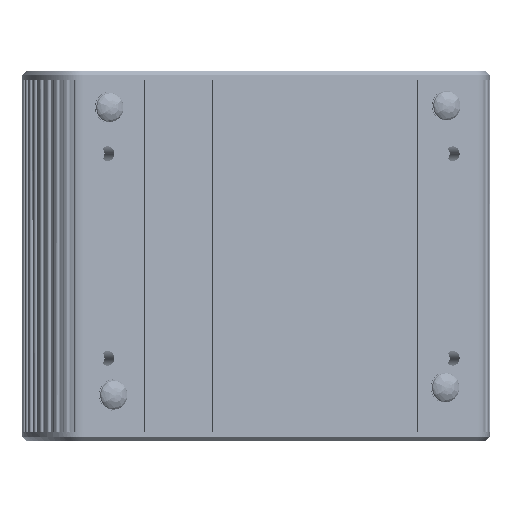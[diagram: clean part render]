
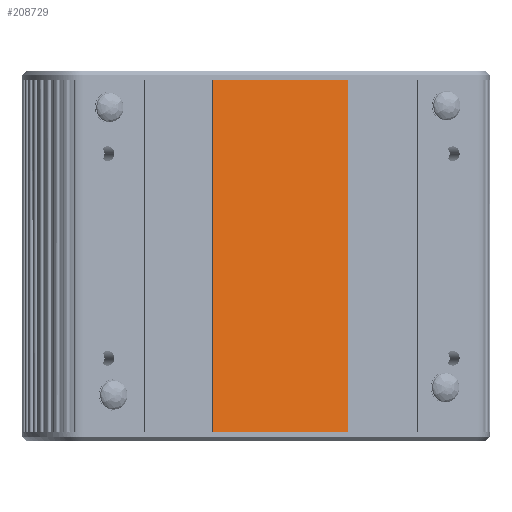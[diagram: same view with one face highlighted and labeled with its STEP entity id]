
A CAD part, front view. The second image highlights one B-rep face of the part: STEP entity #208729.
In plain terms, the highlighted planar face has unit normal (0.383, -0.924, 0) as drawn and (0, -1, 0) by its records, which use the part's own axes.
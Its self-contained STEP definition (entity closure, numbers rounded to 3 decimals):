
#3208 = LINE ( 'NONE', #88164, #226419 ) ;
#4707 = CARTESIAN_POINT ( 'NONE',  ( -15., 0., -70.5 ) ) ;
#13210 = CARTESIAN_POINT ( 'NONE',  ( 15., 0., -70.55 ) ) ;
#13253 = CARTESIAN_POINT ( 'NONE',  ( -15., 0., -70.5 ) ) ;
#34643 = ORIENTED_EDGE ( 'NONE', *, *, #110736, .F. ) ;
#38994 = DIRECTION ( 'NONE',  ( 0., 1., 0. ) ) ;
#50316 = VERTEX_POINT ( 'NONE', #210143 ) ;
#50364 = CARTESIAN_POINT ( 'NONE',  ( -15., 0., 1.55 ) ) ;
#53566 = VERTEX_POINT ( 'NONE', #151909 ) ;
#57184 = VERTEX_POINT ( 'NONE', #50364 ) ;
#70687 = DIRECTION ( 'NONE',  ( 1., 0., 0. ) ) ;
#83287 = VERTEX_POINT ( 'NONE', #13210 ) ;
#88164 = CARTESIAN_POINT ( 'NONE',  ( 15., 0., -70.5 ) ) ;
#93290 = VECTOR ( 'NONE', #102518, 1000. ) ;
#102518 = DIRECTION ( 'NONE',  ( 0., 0., 1. ) ) ;
#110736 = EDGE_CURVE ( 'NONE', #50316, #83287, #3208, .T. ) ;
#117273 = LINE ( 'NONE', #149572, #259938 ) ;
#130955 = EDGE_CURVE ( 'NONE', #57184, #50316, #117273, .T. ) ;
#140753 = ORIENTED_EDGE ( 'NONE', *, *, #130955, .F. ) ;
#147437 = LINE ( 'NONE', #4707, #93290 ) ;
#147476 = AXIS2_PLACEMENT_3D ( 'NONE', #13253, #38994, #210041 ) ;
#148066 = CARTESIAN_POINT ( 'NONE',  ( -15., 0., -70.55 ) ) ;
#149572 = CARTESIAN_POINT ( 'NONE',  ( -35.7, 0., 1.55 ) ) ;
#151909 = CARTESIAN_POINT ( 'NONE',  ( -15., 0., -70.55 ) ) ;
#180063 = ORIENTED_EDGE ( 'NONE', *, *, #194734, .F. ) ;
#186106 = DIRECTION ( 'NONE',  ( 0., 0., -1. ) ) ;
#190523 = ORIENTED_EDGE ( 'NONE', *, *, #258056, .T. ) ;
#194734 = EDGE_CURVE ( 'NONE', #53566, #57184, #147437, .T. ) ;
#208729 = ADVANCED_FACE ( 'NONE', ( #237069 ), #283332, .F. ) ;
#210041 = DIRECTION ( 'NONE',  ( 0., 0., 1. ) ) ;
#210143 = CARTESIAN_POINT ( 'NONE',  ( 15., 0., 1.55 ) ) ;
#221312 = VECTOR ( 'NONE', #70687, 1000. ) ;
#226419 = VECTOR ( 'NONE', #186106, 1000. ) ;
#237069 = FACE_OUTER_BOUND ( 'NONE', #242929, .T. ) ;
#242929 = EDGE_LOOP ( 'NONE', ( #34643, #140753, #180063, #190523 ) ) ;
#258056 = EDGE_CURVE ( 'NONE', #53566, #83287, #275473, .T. ) ;
#259938 = VECTOR ( 'NONE', #273453, 1000. ) ;
#273453 = DIRECTION ( 'NONE',  ( 1., 0., 0. ) ) ;
#275473 = LINE ( 'NONE', #148066, #221312 ) ;
#283332 = PLANE ( 'NONE',  #147476 ) ;
